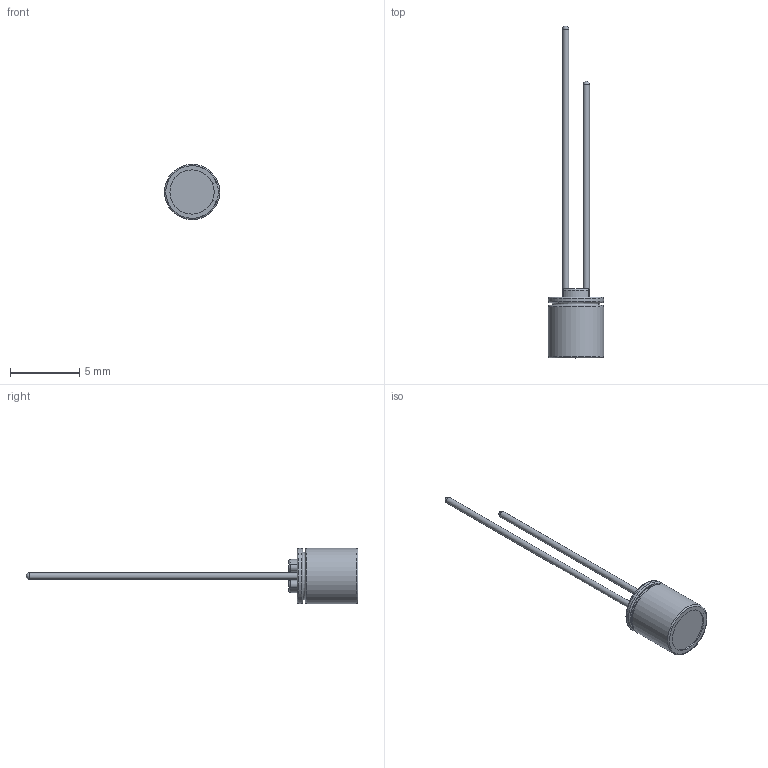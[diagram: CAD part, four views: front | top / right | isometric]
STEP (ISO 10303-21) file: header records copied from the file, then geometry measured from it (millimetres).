
FILE_DESCRIPTION(/* description */ (''),/* implementation_level */ '2;1');
FILE_NAME(/* name */ '4x5_Lead.stp',/* time_stamp */ '2017-08-31T11:48:33+09:00',/* author */ (''),/* organization */ (''),/* preprocessor_version */ 'ST-DEVELOPER v16',/* originating_system */ 'SIEMENS PLM Software NX 11.0',/* authorisation */ '');
FILE_SCHEMA (('AUTOMOTIVE_DESIGN { 1 0 10303 214 3 1 1 1 }'));
Length unit declared in the file: millimetre
Products named in the file (1): 4x5_Lead_igsstp
Bounding box: 3.99 x 24 x 4 mm (x, y, z)
Volume: 60.9 mm3; surface area: 265.1 mm2
Topology: 3 solids, 3 shells, 72 faces, 182 edges, 119 vertices
Faces by surface type: plane 25, cylinder 24, torus 21, sphere 2
Full cylindrical faces by diameter (mm): 0.45 x2, 3.8 x2
Entity records: 2369 total; most frequent: DIRECTION 422, CARTESIAN_POINT 357, ORIENTED_EDGE 340, AXIS2_PLACEMENT_3D 179, EDGE_CURVE 170, VERTEX_POINT 114, CIRCLE 106, EDGE_LOOP 82
